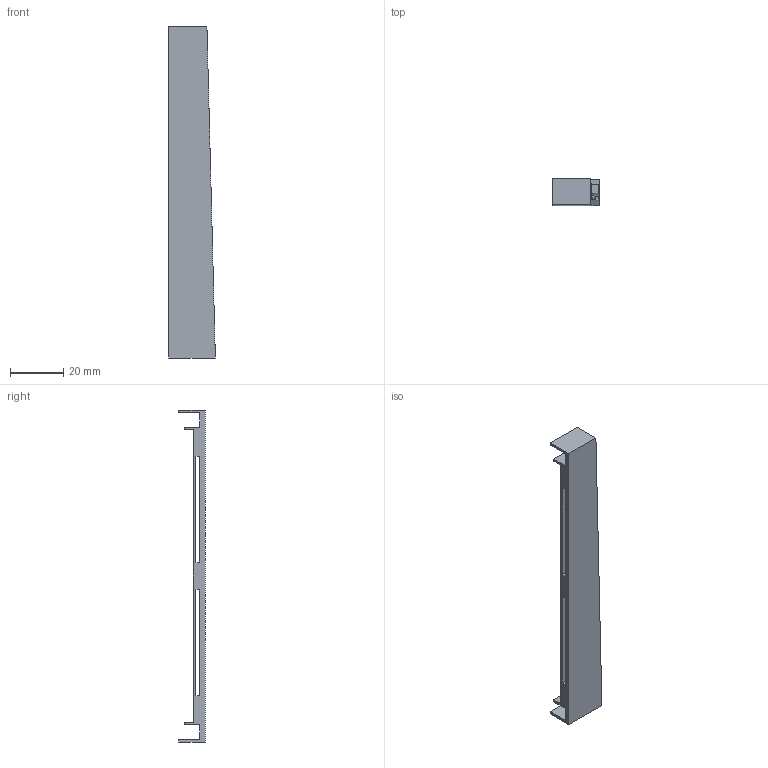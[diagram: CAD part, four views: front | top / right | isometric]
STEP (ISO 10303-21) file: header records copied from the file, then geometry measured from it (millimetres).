
FILE_DESCRIPTION(('STEP AP203'), '1');
FILE_NAME('ðåçîíàòîð 7 14õ18', '2016-07-08T15:13:50', ('ss'), (''), 'ASCON STEP Converter 1.3', 'ASCON Math Kernel', '');
FILE_SCHEMA(('CONFIG_CONTROL_DESIGN'));
Length unit declared in the file: millimetre
Products named in the file (1): 2
Bounding box: 17.58 x 10 x 125 mm (x, y, z)
Volume: 6922.5 mm3; surface area: 8396.1 mm2
Topology: 1 solids, 1 shells, 26 faces, 72 edges, 48 vertices
Faces by surface type: plane 26
Entity records: 868 total; most frequent: CARTESIAN_POINT 147, ORIENTED_EDGE 144, DIRECTION 126, EDGE_CURVE 72, LINE 72, VECTOR 72, VERTEX_POINT 48, FACE_BOUND 30
